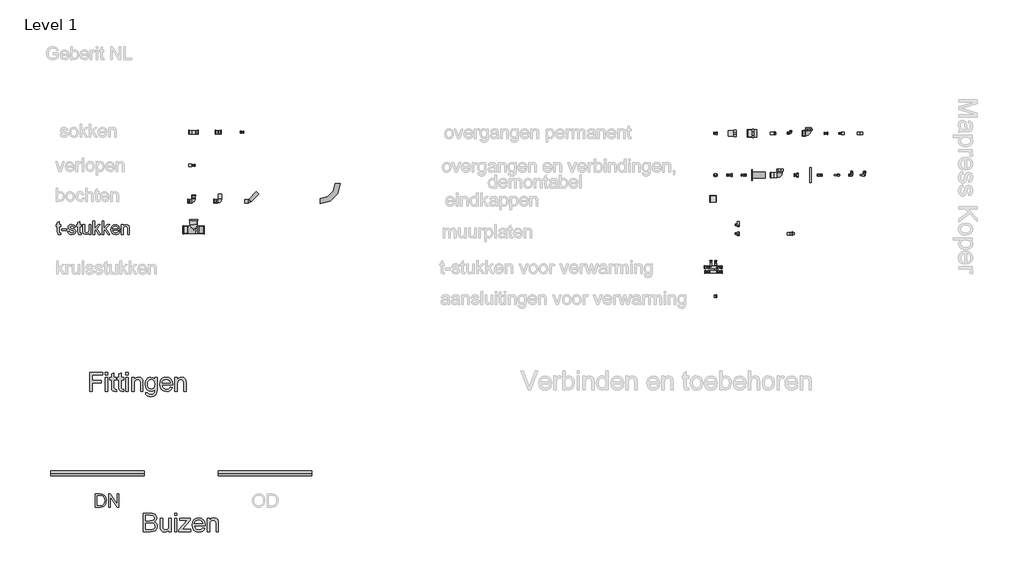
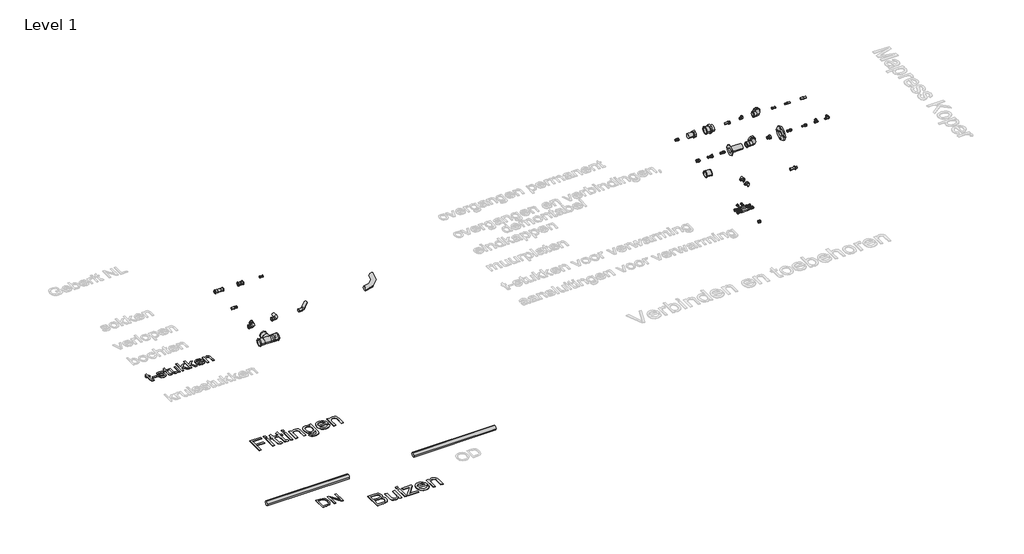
# One storey, part 1 of 7: 34 pipe fittings, 4 proxies, 3 pipe segments.
"""IFC4 building model written with IfcOpenShell, lengths in millimetres."""

from ifc_helpers import new_model, si_unit, point, frame, frame_2d, origin, origin_with_axes, place, context, project, spatial, polyline, circle_curve, trimmed, segment, composite_curve, outline, extrude, transform, mapped, element, save
from components import pipe_fitting_8753d62d, pipe_fitting_cea77ad7, pipe_fitting_85bc535a, pipe_fitting_5af64ebc, pipe_fitting_5f96ebef, pipe_fitting_c9f97ff8, pipe_fitting_71529f2a, pipe_fitting_ba9ec953, pipe_fitting_36b1eb7f, pipe_fitting_a139b20b, pipe_fitting_c629bbde, pipe_fitting_23f2ed73, pipe_fitting_fde87e36, pipe_fitting_cbf9872b, pipe_fitting_dd8badfe, pipe_fitting_a43a226b, pipe_fitting_d23605d3, pipe_fitting_670eabc0, dn10_100_d12_108_a1f77d31, dn10_100_d12_108_199a5dac, dn10_100_d12_108_195be385, dn10_100_d12_108_8bdaee71, dn10_20_d12_22_b3b4a3d3, dn10_20_d12_22_c27e3a43, dn10_20_d12_22_2ae8da42, dn12_100_d15_108_5494abe6, dn12_12_d15_15_60170937, dn12_12_d15_15_efb0e353, dn12_12_d15_15_3ed2f5e3, dn12_12_d15_15_e9d87322, dn12_15_d15_18_9d24d5f7, dn12_20_d16_25_9b3fed16, dn12_50_d16_63_917c8bb9, dn25_100_a48f3478, dn25_100_d28_108_3f39c27f, dn10_50_d12_54_8f782e33

model = new_model("IFC4")

# Units and contexts
model_context = context("Model", 3, world=origin())
ifc_project = project(units=[si_unit("LENGTHUNIT", "METRE", prefix="MILLI")], contexts=[model_context])

# Site, building, storey
site = spatial("IfcSite", under=ifc_project)
building = spatial("IfcBuilding", under=site)
storey = spatial("IfcBuildingStorey", under=building, Name="Level 1", Elevation=0.0)

# Proxies
placement = place(None, origin())
element("IfcBuildingElementProxy", 1, Name="medium", ObjectType="medium", at=placement, inside=storey, context=model_context, shape_type="SweptSolid", body=[
    extrude(outline(polyline([(-1520.685399, 2905.4001554), (-1520.685399, 3106.3127757), (-1385.6972322, 3106.3127757), (-1385.6972322, 3081.1986982), (-1495.5713215, 3081.1986982), (-1495.5713215, 3021.5527641), (-1401.3935307, 3021.5527641), (-1401.3935307, 2996.4386865), (-1495.5713215, 2996.4386865), (-1495.5713215, 2905.4001554), (-1520.685399, 2905.4001554)])), origin_with_axes(), (0.0, 0.0, 1.0), 5.0),
    extrude(outline(polyline([(-1354.3046353, 2905.4001554), (-1354.3046353, 3052.945361), (-1329.1905578, 3052.945361), (-1329.1905578, 2905.4001554), (-1354.3046353, 2905.4001554)])), origin_with_axes(), (0.0, 0.0, 1.0), 5.0),
    extrude(outline(polyline([(-1354.3046353, 3081.1986982), (-1354.3046353, 3106.3127757), (-1329.1905578, 3106.3127757), (-1329.1905578, 3081.1986982), (-1354.3046353, 3081.1986982)])), origin_with_axes(), (0.0, 0.0, 1.0), 5.0),
    extrude(outline(polyline([(-1238.1520267, 2926.3449037), (-1235.012767, 2904.6643915), (-1253.7992742, 2902.2608958), (-1274.8421244, 2906.430225), (-1285.339024, 2917.368583), (-1288.3801818, 2945.8671749), (-1288.3801818, 3027.8312834), (-1307.2157399, 3027.8312834), (-1307.2157399, 3052.945361), (-1288.3801818, 3052.945361), (-1288.3801818, 3088.8015928), (-1263.2661043, 3103.5659235), (-1263.2661043, 3052.945361), (-1238.1520267, 3052.945361), (-1238.1520267, 3027.8312834), (-1263.2661043, 3027.8312834), (-1263.2661043, 2946.6029389), (-1261.9417291, 2933.6534927), (-1257.6497725, 2929.0672305), (-1249.0903847, 2927.3749733), (-1238.1520267, 2926.3449037)])), origin_with_axes(), (0.0, 0.0, 1.0), 5.0),
    extrude(outline(polyline([(-1159.6705344, 2926.3449037), (-1156.5312747, 2904.6643915), (-1175.3177819, 2902.2608958), (-1196.3606321, 2906.430225), (-1206.8575317, 2917.368583), (-1209.8986895, 2945.8671749), (-1209.8986895, 3027.8312834), (-1228.7342476, 3027.8312834), (-1228.7342476, 3052.945361), (-1209.8986895, 3052.945361), (-1209.8986895, 3088.8015928), (-1184.7846119, 3103.5659235), (-1184.7846119, 3052.945361), (-1159.6705344, 3052.945361), (-1159.6705344, 3027.8312834), (-1184.7846119, 3027.8312834), (-1184.7846119, 2946.6029389), (-1183.4602368, 2933.6534927), (-1179.1682802, 2929.0672305), (-1170.6088924, 2927.3749733), (-1159.6705344, 2926.3449037)])), origin_with_axes(), (0.0, 0.0, 1.0), 5.0),
    extrude(outline(polyline([(-1134.5564569, 2905.4001554), (-1134.5564569, 3052.945361), (-1109.4423793, 3052.945361), (-1109.4423793, 2905.4001554), (-1134.5564569, 2905.4001554)])), origin_with_axes(), (0.0, 0.0, 1.0), 5.0),
    extrude(outline(polyline([(-1134.5564569, 3081.1986982), (-1134.5564569, 3106.3127757), (-1109.4423793, 3106.3127757), (-1109.4423793, 3081.1986982), (-1134.5564569, 3081.1986982)])), origin_with_axes(), (0.0, 0.0, 1.0), 5.0),
    extrude(outline(polyline([(-1071.771263, 2905.4001554), (-1071.771263, 3052.945361), (-1046.6571855, 3052.945361), (-1046.6571855, 3032.3439692), (-1037.9322508, 3042.7305042), (-1027.4537453, 3050.1494578), (-1015.221669, 3054.60083), (-1001.2360218, 3056.0846207), (-977.5198959, 3051.3021547), (-961.3330881, 3038.745116), (-953.8037699, 3020.2774398), (-952.4793947, 2995.9972281), (-952.4793947, 2905.4001554), (-977.5934723, 2905.4001554), (-977.5934723, 2992.6127138), (-980.4874773, 3014.8327863), (-990.7145968, 3026.5804847), (-1007.9559996, 3030.9705431), (-1022.665148, 3028.5057338), (-1035.2037927, 3021.1113057), (-1043.7938373, 3006.8252215), (-1046.6571855, 2983.685444), (-1046.6571855, 2905.4001554), (-1071.771263, 2905.4001554)])), origin_with_axes(), (0.0, 0.0, 1.0), 5.0),
    extrude(outline(polyline([(-924.2260575, 2892.8431167), (-899.11198, 2889.703857), (-896.3406023, 2881.8557078), (-890.9695251, 2876.4601052), (-880.4113119, 2872.2662504), (-866.5912116, 2870.8682988), (-851.8514063, 2872.4501914), (-840.8885229, 2877.1958691), (-833.2856283, 2884.7987637), (-828.6257897, 2894.9523068), (-826.909007, 2924.2357136), (-844.5918683, 2910.109045), (-866.1497532, 2905.4001554), (-892.0425143, 2910.8815972), (-911.3501877, 2927.3259224), (-923.3615348, 2951.4344558), (-927.3653172, 2979.9085222), (-925.5688268, 3000.1849515), (-920.1793555, 3018.8304373), (-911.3869759, 3034.630969), (-899.3817601, 3046.372536), (-884.5745098, 3053.6565995), (-867.3760265, 3056.0846207), (-844.972013, 3050.5909162), (-826.909007, 3034.1098028), (-826.909007, 3052.945361), (-801.7949295, 3052.945361), (-801.7949295, 2925.5600888), (-803.5117121, 2896.1479233), (-808.6620601, 2876.7789362), (-817.5341475, 2863.9337232), (-830.4161487, 2854.0928798), (-847.0260208, 2847.8388859), (-867.0817209, 2845.7542213), (-890.448359, 2848.6911459), (-908.8485901, 2857.5019197), (-920.6514708, 2872.2110681), (-924.2260575, 2892.8431167)]), holes=[polyline([(-902.2512397, 2981.6253048), (-899.5718325, 2958.5897606), (-891.5336109, 2942.7524407), (-879.4486873, 2933.5737849), (-864.6291743, 2930.514233), (-849.9200258, 2933.5553908), (-837.7737886, 2942.6788643), (-829.6252024, 2958.3138491), (-826.909007, 2980.8895409), (-829.7049102, 3002.6620236), (-838.0926197, 3018.339928), (-850.4166665, 3027.8128893), (-865.0215817, 3030.9705431), (-879.3628482, 3027.8619403), (-891.3864581, 3018.5361317), (-899.5350443, 3003.0912193), (-902.2512397, 2981.6253048)])]), origin_with_axes(), (0.0, 0.0, 1.0), 5.0),
    extrude(outline(polyline([(-660.8225489, 2949.3497911), (-636.1989807, 2946.2105314), (-645.0710682, 2927.6570162), (-659.2283936, 2913.7878649), (-678.352126, 2905.142638), (-702.1234343, 2902.2608958), (-731.5907821, 2907.2334341), (-754.2645757, 2922.151049), (-768.7223381, 2946.0449845), (-773.5415923, 2977.9464849), (-768.6732872, 3010.9209744), (-754.068372, 3035.5813308), (-731.7011467, 3050.9587982), (-703.5459113, 3056.0846207), (-676.2674614, 3050.9710609), (-654.4704532, 3035.6303817), (-640.1782377, 3011.0190763), (-635.4141658, 2978.0936377), (-635.5613186, 2971.324609), (-748.4275147, 2971.324609), (-744.0803758, 2952.525839), (-733.9820151, 2938.7057387), (-719.4077567, 2930.2076647), (-701.6329249, 2927.3749733), (-677.0093567, 2932.6234231), (-667.8613578, 2939.42924), (-660.8225489, 2949.3497911)]), holes=[polyline([(-748.4275147, 2996.4386865), (-660.5282434, 2996.4386865), (-663.9250204, 3009.7069638), (-670.5836846, 3019.1983193), (-685.225388, 3028.0274872), (-703.6440132, 3030.9705431), (-720.5727163, 3028.6222297), (-734.5706262, 3021.5772895), (-744.301105, 3010.596012), (-748.4275147, 2996.4386865)])]), origin_with_axes(), (0.0, 0.0, 1.0), 5.0),
    extrude(outline(polyline([(-610.3000883, 2905.4001554), (-610.3000883, 3052.945361), (-585.1860107, 3052.945361), (-585.1860107, 3032.3439692), (-576.4610761, 3042.7305042), (-565.9825706, 3050.1494578), (-553.7504943, 3054.60083), (-539.7648471, 3056.0846207), (-516.0487211, 3051.3021547), (-499.8619133, 3038.745116), (-492.3325952, 3020.2774398), (-491.00822, 2995.9972281), (-491.00822, 2905.4001554), (-516.1222975, 2905.4001554), (-516.1222975, 2992.6127138), (-519.0163025, 3014.8327863), (-529.243422, 3026.5804847), (-546.4848248, 3030.9705431), (-561.1939733, 3028.5057338), (-573.732618, 3021.1113057), (-582.3226625, 3006.8252215), (-585.1860107, 2983.685444), (-585.1860107, 2905.4001554), (-610.3000883, 2905.4001554)])), origin_with_axes(), (0.0, 0.0, 1.0), 5.0),
])
element("IfcBuildingElementProxy", 2, Name="medium", ObjectType="medium", at=placement, inside=storey, context=model_context, shape_type="SweptSolid", body=[
    extrude(outline(polyline([(-950.0809458, 1396.8925288), (-950.0809458, 1597.805149), (-873.414338, 1597.805149), (-852.3285683, 1596.3274897), (-835.865849, 1591.8945117), (-823.2474966, 1584.3958503), (-813.6948274, 1573.7211411), (-807.6799568, 1561.1641023), (-805.6749999, 1548.0184524), (-807.3611257, 1535.9212661), (-812.4195032, 1524.5475811), (-820.8869204, 1514.5963731), (-832.8001657, 1506.766618), (-818.5692639, 1499.3354017), (-808.0539702, 1488.0291617), (-801.5608529, 1473.5959247), (-799.3964805, 1456.7837176), (-805.3071179, 1429.7811791), (-819.9488213, 1410.5532135), (-841.8010118, 1400.3506195), (-874.0029492, 1396.8925288), (-950.0809458, 1396.8925288)]), holes=[polyline([(-924.9668682, 1422.0066063), (-873.4633889, 1422.0066063), (-854.8240345, 1422.9876249), (-839.0541596, 1428.4568039), (-828.606311, 1439.6158911), (-824.5105581, 1456.5384629), (-829.3175495, 1476.0607341), (-835.614463, 1483.1179371), (-844.8912206, 1487.7103306), (-875.9159355, 1491.0703195), (-924.9668682, 1491.0703195), (-924.9668682, 1422.0066063)]), polyline([(-924.9668682, 1516.1843971), (-879.1042462, 1516.1843971), (-852.3224369, 1518.3426381), (-836.2092055, 1527.6377898), (-830.7890775, 1543.9962759), (-835.8413235, 1560.3792874), (-850.3113487, 1570.0668466), (-882.5868624, 1572.6910715), (-924.9668682, 1572.6910715), (-924.9668682, 1516.1843971)])]), origin_with_axes(), (0.0, 0.0, 1.0), 5.0),
    extrude(outline(polyline([(-673.8260929, 1396.8925288), (-673.8260929, 1422.251861), (-682.9127781, 1409.783727), (-693.4955169, 1400.877917), (-705.574309, 1395.5344311), (-719.1491547, 1393.7532691), (-742.7671787, 1398.7564642), (-759.0520884, 1411.313503), (-766.5323556, 1429.8057046), (-768.0038836, 1453.1539485), (-768.0038836, 1544.4377343), (-742.8898061, 1544.4377343), (-742.8898061, 1464.9752233), (-741.3692272, 1439.3706365), (-737.7088013, 1430.8296428), (-731.4364133, 1424.3365256), (-712.7234825, 1418.8673466), (-691.7542087, 1424.4591529), (-683.3971561, 1431.0626347), (-677.8973203, 1439.6894675), (-673.8260929, 1467.6730246), (-673.8260929, 1544.4377343), (-648.7120153, 1544.4377343), (-648.7120153, 1396.8925288), (-673.8260929, 1396.8925288)])), origin_with_axes(), (0.0, 0.0, 1.0), 5.0),
    extrude(outline(polyline([(-614.1801587, 1572.6910715), (-614.1801587, 1597.805149), (-589.0660812, 1597.805149), (-589.0660812, 1572.6910715), (-614.1801587, 1572.6910715)])), origin_with_axes(), (0.0, 0.0, 1.0), 5.0),
    extrude(outline(polyline([(-614.1801587, 1396.8925288), (-614.1801587, 1544.4377343), (-589.0660812, 1544.4377343), (-589.0660812, 1396.8925288), (-614.1801587, 1396.8925288)])), origin_with_axes(), (0.0, 0.0, 1.0), 5.0),
    extrude(outline(polyline([(-567.0912633, 1396.8925288), (-567.0912633, 1420.5350783), (-480.4182653, 1519.3236567), (-506.071903, 1519.3236567), (-560.8127439, 1519.3236567), (-560.8127439, 1544.4377343), (-444.6601353, 1544.4377343), (-444.6601353, 1523.1005786), (-521.5229468, 1435.4465618), (-533.2951707, 1422.0066063), (-504.2570185, 1422.0066063), (-441.5208756, 1422.0066063), (-441.5208756, 1396.8925288), (-567.0912633, 1396.8925288)])), origin_with_axes(), (0.0, 0.0, 1.0), 5.0),
    extrude(outline(polyline([(-313.1055338, 1440.8421644), (-288.4819656, 1437.7029047), (-297.3540531, 1419.1493895), (-311.5113785, 1405.2802382), (-330.6351109, 1396.6350114), (-354.4064192, 1393.7532691), (-383.873767, 1398.7258074), (-406.5475606, 1413.6434223), (-421.005323, 1437.5373579), (-425.8245772, 1469.4388582), (-420.9562721, 1502.4133477), (-406.3513569, 1527.0737041), (-383.9841316, 1542.4511715), (-355.8288962, 1547.576994), (-328.5504463, 1542.4634342), (-306.7534381, 1527.122755), (-292.4612226, 1502.5114496), (-287.6971507, 1469.586011), (-287.8443035, 1462.8169823), (-400.7104996, 1462.8169823), (-396.3633607, 1444.0182123), (-386.265, 1430.198112), (-371.6907416, 1421.700038), (-353.9159098, 1418.8673466), (-329.2923416, 1424.1157964), (-320.1443427, 1430.9216133), (-313.1055338, 1440.8421644)]), holes=[polyline([(-400.7104996, 1487.9310598), (-312.8112283, 1487.9310598), (-316.2080053, 1501.1993371), (-322.8666695, 1510.6906926), (-337.5083729, 1519.5198605), (-355.9269981, 1522.4629164), (-372.8557012, 1520.114603), (-386.8536111, 1513.0696628), (-396.5840899, 1502.0883853), (-400.7104996, 1487.9310598)])]), origin_with_axes(), (0.0, 0.0, 1.0), 5.0),
    extrude(outline(polyline([(-262.5830732, 1396.8925288), (-262.5830732, 1544.4377343), (-237.4689956, 1544.4377343), (-237.4689956, 1523.8363426), (-228.744061, 1534.2228775), (-218.2655555, 1541.6418311), (-206.0334792, 1546.0932033), (-192.047832, 1547.576994), (-168.331706, 1542.794528), (-152.1448982, 1530.2374893), (-144.6155801, 1511.7698131), (-143.2912049, 1487.4896014), (-143.2912049, 1396.8925288), (-168.4052824, 1396.8925288), (-168.4052824, 1484.1050871), (-171.2992874, 1506.3251596), (-181.5264069, 1518.072858), (-198.7678097, 1522.4629164), (-213.4769582, 1519.9981071), (-226.0156029, 1512.603679), (-234.6056474, 1498.3175948), (-237.4689956, 1475.1778173), (-237.4689956, 1396.8925288), (-262.5830732, 1396.8925288)])), origin_with_axes(), (0.0, 0.0, 1.0), 5.0),
])
element("IfcBuildingElementProxy", 3, Name="small", ObjectType="small", at=placement, inside=storey, context=model_context, shape_type="SweptSolid", body=[
    extrude(outline(polyline([(-1834.1592293, 4602.2618599), (-1831.9617475, 4587.0855013), (-1845.1123026, 4585.4030543), (-1859.8422977, 4588.3215848), (-1867.1901274, 4595.9784354), (-1869.3189379, 4615.9274497), (-1869.3189379, 4673.3023257), (-1882.5038286, 4673.3023257), (-1882.5038286, 4690.88218), (-1869.3189379, 4690.88218), (-1869.3189379, 4715.9815422), (-1851.7390836, 4726.3165737), (-1851.7390836, 4690.88218), (-1834.1592293, 4690.88218), (-1834.1592293, 4673.3023257), (-1851.7390836, 4673.3023257), (-1851.7390836, 4616.4424845), (-1850.812021, 4607.3778721), (-1847.8076513, 4604.1674886), (-1841.8160799, 4602.9829086), (-1834.1592293, 4602.2618599)])), origin_with_axes(), (0.0, 0.0, 1.0), 5.0),
    extrude(outline(polyline([(-1825.3693022, 4629.35269), (-1825.3693022, 4646.9325443), (-1770.4322576, 4646.9325443), (-1770.4322576, 4629.35269), (-1825.3693022, 4629.35269)])), origin_with_axes(), (0.0, 0.0, 1.0), 5.0),
    extrude(outline(polyline([(-1757.2473669, 4618.3652811), (-1739.6675126, 4620.5627629), (-1736.8949086, 4613.0432549), (-1731.5299628, 4607.5152148), (-1712.8857033, 4602.9829086), (-1694.9624925, 4607.1375226), (-1689.1254315, 4616.888848), (-1694.9968282, 4624.7860482), (-1713.0917172, 4629.7990535), (-1739.5645056, 4638.4001345), (-1751.1184528, 4648.443313), (-1755.0498851, 4662.6239376), (-1751.891005, 4675.7229892), (-1743.2727561, 4685.731832), (-1732.0965011, 4690.9336834), (-1716.971646, 4693.0796617), (-1695.5805343, 4689.6289286), (-1681.9836157, 4680.289631), (-1675.9405408, 4664.5123985), (-1693.5203951, 4662.3149168), (-1700.1300083, 4672.0147387), (-1715.5982199, 4675.4998075), (-1732.4226898, 4672.1692491), (-1737.4700308, 4664.4093916), (-1735.375556, 4659.2933793), (-1728.8174463, 4655.4134505), (-1713.6754233, 4651.6708644), (-1687.8721802, 4643.395972), (-1675.8890373, 4634.0223388), (-1671.5455773, 4618.7429733), (-1676.6444217, 4601.9185033), (-1691.357249, 4589.7121787), (-1713.1260529, 4585.4030543), (-1730.8518337, 4587.4803613), (-1743.7877909, 4593.7122823), (-1752.4232076, 4604.030146), (-1757.2473669, 4618.3652811)])), origin_with_axes(), (0.0, 0.0, 1.0), 5.0),
    extrude(outline(polyline([(-1614.4110509, 4602.2618599), (-1612.2135691, 4587.0855013), (-1625.3641241, 4585.4030543), (-1640.0941192, 4588.3215848), (-1647.4419489, 4595.9784354), (-1649.5707594, 4615.9274497), (-1649.5707594, 4673.3023257), (-1662.7556501, 4673.3023257), (-1662.7556501, 4690.88218), (-1649.5707594, 4690.88218), (-1649.5707594, 4715.9815422), (-1631.9909051, 4726.3165737), (-1631.9909051, 4690.88218), (-1614.4110509, 4690.88218), (-1614.4110509, 4673.3023257), (-1631.9909051, 4673.3023257), (-1631.9909051, 4616.4424845), (-1631.0638425, 4607.3778721), (-1628.0594729, 4604.1674886), (-1622.0679015, 4602.9829086), (-1614.4110509, 4602.2618599)])), origin_with_axes(), (0.0, 0.0, 1.0), 5.0),
    extrude(outline(polyline([(-1530.906743, 4587.6005361), (-1530.906743, 4605.3520686), (-1544.6753399, 4590.3903079), (-1562.6328863, 4585.4030543), (-1579.1655032, 4588.9052909), (-1590.5649399, 4597.695218), (-1595.801127, 4610.6397592), (-1596.8311966, 4626.9835299), (-1596.8311966, 4690.88218), (-1579.2513423, 4690.88218), (-1579.2513423, 4635.2584223), (-1578.1869371, 4617.3352115), (-1571.2339674, 4606.8113339), (-1558.1349158, 4602.9829086), (-1543.4564242, 4606.897173), (-1533.7566022, 4617.5583932), (-1530.906743, 4637.1468832), (-1530.906743, 4690.88218), (-1513.3268888, 4690.88218), (-1513.3268888, 4587.6005361), (-1530.906743, 4587.6005361)])), origin_with_axes(), (0.0, 0.0, 1.0), 5.0),
    extrude(outline(polyline([(-1489.1545891, 4587.6005361), (-1489.1545891, 4728.2393703), (-1471.5747349, 4728.2393703), (-1471.5747349, 4652.6665983), (-1432.1574054, 4690.88218), (-1407.8477631, 4690.88218), (-1447.7457918, 4652.1858992), (-1405.6502813, 4587.6005361), (-1426.1830018, 4587.6005361), (-1460.3469764, 4639.9624067), (-1471.5747349, 4629.0780048), (-1471.5747349, 4587.6005361), (-1489.1545891, 4587.6005361)])), origin_with_axes(), (0.0, 0.0, 1.0), 5.0),
    extrude(outline(polyline([(-1390.2679088, 4587.6005361), (-1390.2679088, 4728.2393703), (-1372.6880546, 4728.2393703), (-1372.6880546, 4652.6665983), (-1333.2707251, 4690.88218), (-1308.9610828, 4690.88218), (-1348.8591115, 4652.1858992), (-1306.763601, 4587.6005361), (-1327.2963215, 4587.6005361), (-1361.4602961, 4639.9624067), (-1372.6880546, 4629.0780048), (-1372.6880546, 4587.6005361), (-1390.2679088, 4587.6005361)])), origin_with_axes(), (0.0, 0.0, 1.0), 5.0),
    extrude(outline(polyline([(-1219.0703436, 4618.3652811), (-1201.8338458, 4616.1677993), (-1208.044307, 4603.1803386), (-1217.9544348, 4593.4719327), (-1231.3410475, 4587.4202739), (-1247.9809633, 4585.4030543), (-1268.6081068, 4588.8838311), (-1284.4797623, 4599.3261615), (-1294.600196, 4616.0519165), (-1297.9736739, 4638.3829667), (-1294.5658603, 4661.4651094), (-1284.3424197, 4678.7273588), (-1268.685362, 4689.491586), (-1248.9766972, 4693.0796617), (-1229.8817823, 4689.5001699), (-1214.6238765, 4678.7616945), (-1204.6193257, 4661.5337807), (-1201.2844754, 4638.4859737), (-1201.3874823, 4633.7476536), (-1280.3938196, 4633.7476536), (-1277.3508224, 4620.5885146), (-1270.2819698, 4610.9144444), (-1260.079989, 4604.9657925), (-1247.6376068, 4602.9829086), (-1230.401109, 4606.6568234), (-1219.0703436, 4618.3652811)]), holes=[polyline([(-1280.3938196, 4651.3275078), (-1218.8643296, 4651.3275078), (-1225.9031385, 4667.2592508), (-1236.1523309, 4673.4396683), (-1249.0453685, 4675.4998075), (-1260.8954607, 4673.8559881), (-1270.6939977, 4668.9245299), (-1277.5053328, 4661.2376357), (-1280.3938196, 4651.3275078)])]), origin_with_axes(), (0.0, 0.0, 1.0), 5.0),
    extrude(outline(polyline([(-1183.7046211, 4587.6005361), (-1183.7046211, 4690.88218), (-1166.1247668, 4690.88218), (-1166.1247668, 4676.4612057), (-1152.6823587, 4688.9250477), (-1134.3299522, 4693.0796617), (-1117.7286641, 4689.7319356), (-1106.3978986, 4680.9420085), (-1101.1273759, 4668.0146351), (-1100.2003133, 4651.018487), (-1100.2003133, 4587.6005361), (-1117.7801676, 4587.6005361), (-1117.7801676, 4648.6493269), (-1119.8059711, 4664.2033777), (-1126.9649547, 4672.4267665), (-1139.0339367, 4675.4998075), (-1149.3303406, 4673.7744409), (-1158.1073919, 4668.5983412), (-1164.1204231, 4658.5980823), (-1166.1247668, 4642.4002381), (-1166.1247668, 4587.6005361), (-1183.7046211, 4587.6005361)])), origin_with_axes(), (0.0, 0.0, 1.0), 5.0),
])
element("IfcBuildingElementProxy", 4, Name="small", ObjectType="small", at=placement, inside=storey, context=model_context, shape_type="SweptSolid", body=[
    extrude(outline(polyline([(-1462.640046, 1662.4383691), (-1462.640046, 1803.0772033), (-1414.1237685, 1803.0772033), (-1389.0244062, 1801.0513997), (-1368.3543432, 1790.9910535), (-1358.6287695, 1780.2783298), (-1351.7015515, 1766.9560964), (-1346.1735114, 1733.5131705), (-1349.9160976, 1705.1347534), (-1359.5300804, 1684.6535365), (-1372.3716146, 1671.8978414), (-1389.1789167, 1664.8418648), (-1411.7889441, 1662.4383691), (-1462.640046, 1662.4383691)]), holes=[polyline([(-1445.0601917, 1680.0182233), (-1413.9520902, 1680.0182233), (-1391.324895, 1682.5590616), (-1378.2773469, 1689.7352131), (-1367.581791, 1707.1948926), (-1363.7533657, 1733.7878557), (-1365.6289507, 1752.9471501), (-1371.2557059, 1767.093439), (-1379.5692258, 1776.8104288), (-1389.5051054, 1782.6818255), (-1414.4327894, 1785.497349), (-1445.0601917, 1785.497349), (-1445.0601917, 1680.0182233)])]), origin_with_axes(), (0.0, 0.0, 1.0), 5.0),
    extrude(outline(polyline([(-1322.0012118, 1662.4383691), (-1322.0012118, 1803.0772033), (-1303.185274, 1803.0772033), (-1229.7069769, 1691.6580097), (-1229.7069769, 1803.0772033), (-1212.1271226, 1803.0772033), (-1212.1271226, 1662.4383691), (-1230.9430604, 1662.4383691), (-1304.4213575, 1773.8918983), (-1304.4213575, 1662.4383691), (-1322.0012118, 1662.4383691)])), origin_with_axes(), (0.0, 0.0, 1.0), 5.0),
])

# Pipe fittings
pipe_fitting_shape = pipe_fitting_8753d62d(model_context)
element("IfcPipeFitting", 5, ObjectType="NLRS_50_PIF_UN_Mapress koper pasbocht_geb : DN25-50 / d28-54 (15°/30°/45°/60°), DN12-50 / d15-54 (90°)", at=placement, inside=storey, context=model_context, shape_type="MappedRepresentation", body=[
    mapped(pipe_fitting_shape, transform((186.582667, 4943.5495956, 0.0), x_axis=(1.0, 0.0, 0.0), y_axis=(0.0, 1.0, 0.0), z_axis=(0.0, 0.0, 1.0))),
])
pipe_fitting_2_shape = pipe_fitting_cea77ad7(model_context)
element("IfcPipeFitting", 6, ObjectType="NLRS_50_PIF_UN_Mapress koper overgang met binnendraad_geb : DN10-50-Rp2\" / d12-54-Rp2\"", at=placement, inside=storey, context=model_context, shape_type="MappedRepresentation", body=[
    mapped(pipe_fitting_2_shape, transform((5184.1814042, 5671.2665691, 0.0), x_axis=(1.0, 0.0, 0.0), y_axis=(0.0, 1.0, 0.0), z_axis=(0.0, 0.0, 1.0))),
])
pipe_fitting_3_shape = pipe_fitting_85bc535a(model_context)
element("IfcPipeFitting", 7, ObjectType="NLRS_50_PIF_UN_Mapress koper overgang met binnendraad en insteekeinde_geb : DN12-50-Rp2\" / d15-54-Rp2\"", at=placement, inside=storey, context=model_context, shape_type="MappedRepresentation", body=[
    mapped(pipe_fitting_3_shape, transform((5367.1408696, 5671.2665691, 0.0), x_axis=(1.0, 0.0, 0.0), y_axis=(0.0, 1.0, 0.0), z_axis=(0.0, 0.0, 1.0))),
])
pipe_fitting_4_shape = pipe_fitting_5af64ebc(model_context)
element("IfcPipeFitting", 8, ObjectType="NLRS_50_PIF_UN_Mapress koper overgang met buitendraad_geb : DN10-80-R3\" / d12-89-R3\"", at=placement, inside=storey, context=model_context, shape_type="MappedRepresentation", body=[
    mapped(pipe_fitting_4_shape, transform((5576.1389322, 5671.2665691, 0.0), x_axis=(1.0, 0.0, 0.0), y_axis=(0.0, 1.0, 0.0), z_axis=(0.0, 0.0, 1.0))),
])
pipe_fitting_5_shape = pipe_fitting_5f96ebef(model_context)
element("IfcPipeFitting", 9, ObjectType="NLRS_50_PIF_UN_Mapress koper overgang met buitendraad en insteekeinde_geb : DN12-20-R3/4\" / d15-22-R3/4\"", at=placement, inside=storey, context=model_context, shape_type="MappedRepresentation", body=[
    mapped(pipe_fitting_5_shape, transform((5802.0970813, 5671.2665691, 0.0), x_axis=(1.0, 0.0, 0.0), y_axis=(0.0, 1.0, 0.0), z_axis=(0.0, 0.0, 1.0))),
])
pipe_fitting_6_shape = pipe_fitting_c9f97ff8(model_context)
element("IfcPipeFitting", 10, ObjectType="NLRS_50_PIF_UN_Mapress koper overgangsknie 90° met binnendraad_geb : DN10-50-Rp2\" / d12-54-Rp2\"", at=placement, inside=storey, context=model_context, shape_type="MappedRepresentation", body=[
    mapped(pipe_fitting_6_shape, transform((5990.1573118, 5674.2665691, 0.0), x_axis=(1.0, 0.0, 0.0), y_axis=(0.0, 1.0, 0.0), z_axis=(0.0, 0.0, 1.0))),
])
pipe_fitting_7_shape = pipe_fitting_71529f2a(model_context)
element("IfcPipeFitting", 11, ObjectType="NLRS_50_PIF_UN_Mapress koper overgangsknie 90° met buitendraad_geb : DN10-50-R2\" / d12-54-R2\"", at=placement, inside=storey, context=model_context, shape_type="MappedRepresentation", body=[
    mapped(pipe_fitting_7_shape, transform((6181.7509236, 5671.2665691, 0.0), x_axis=(1.0, 0.0, 0.0), y_axis=(0.0, 1.0, 0.0), z_axis=(0.0, 0.0, 1.0))),
])
pipe_fitting_8_shape = pipe_fitting_ba9ec953(model_context)
element("IfcPipeFitting", 12, ObjectType="NLRS_50_PIF_UN_Mapress koper muurplaat 90°_geb : DN10-20-Rp3/4\" / d12-22-Rp3/4\" (L1=52 mm)", at=placement, inside=storey, context=model_context, shape_type="MappedRepresentation", body=[
    mapped(pipe_fitting_8_shape, transform((5426.4141834, 4690.45972, 0.0), x_axis=(1.0, 0.0, 0.0), y_axis=(0.0, 1.0, 0.0), z_axis=(0.0, 0.0, 1.0))),
])
pipe_fitting_9_shape = pipe_fitting_36b1eb7f(model_context)
element("IfcPipeFitting", 13, ObjectType="NLRS_50_PIF_UN_adapter met buitendraad MF 1_2_ en binnendraad_geb : DN15-15 / G1/2\"-R1/2\"", at=placement, inside=storey, context=model_context, shape_type="MappedRepresentation", body=[
    mapped(pipe_fitting_9_shape, transform((5184.6814042, 5223.8660039, 0.0), x_axis=(1.0, 0.0, 0.0), y_axis=(0.0, 1.0, 0.0), z_axis=(0.0, 0.0, 1.0))),
])
pipe_fitting_10_shape = pipe_fitting_a139b20b(model_context)
element("IfcPipeFitting", 14, ObjectType="NLRS_50_PIF_UN_Mapress koper 3-d overgangskoppeling met binnendraad_geb : DN10-50-Rp2\" / d12-54-Rp2\"", at=placement, inside=storey, context=model_context, shape_type="MappedRepresentation", body=[
    mapped(pipe_fitting_10_shape, transform((5335.2874594, 5223.8660039, 0.0), x_axis=(1.0, 0.0, 0.0), y_axis=(0.0, 1.0, 0.0), z_axis=(0.0, 0.0, 1.0))),
])
pipe_fitting_11_shape = pipe_fitting_c629bbde(model_context)
element("IfcPipeFitting", 15, ObjectType="NLRS_50_PIF_UN_Mapress koper 3-d overgangskoppeling met buitendraad_geb : DN10-50-R2\" / d12-54-R2\"", at=placement, inside=storey, context=model_context, shape_type="MappedRepresentation", body=[
    mapped(pipe_fitting_11_shape, transform((5486.9410616, 5223.8660039, 0.0), x_axis=(1.0, 0.0, 0.0), y_axis=(0.0, 1.0, 0.0), z_axis=(0.0, 0.0, 1.0))),
])
pipe_fitting_12_shape = pipe_fitting_23f2ed73(model_context)
element("IfcPipeFitting", 16, ObjectType="NLRS_50_PIF_UN_Mapress koper haakse 3-d overgangskoppeling 90° met binnendraad_geb : DN12-50-Rp2\" / d15-54-Rp2\"", at=placement, inside=storey, context=model_context, shape_type="MappedRepresentation", body=[
    mapped(pipe_fitting_12_shape, transform((5873.4393644, 5223.8660039, 0.0), x_axis=(1.0, 0.0, 0.0), y_axis=(0.0, 1.0, 0.0), z_axis=(0.0, 0.0, 1.0))),
])
pipe_fitting_13_shape = pipe_fitting_fde87e36(model_context)
element("IfcPipeFitting", 17, ObjectType="NLRS_50_PIF_UN_Mapress koper overgang met wartel_geb : DN10-80-G3.1/2\" / d12-89-G3.1/2\"", at=placement, inside=storey, context=model_context, shape_type="MappedRepresentation", body=[
    mapped(pipe_fitting_13_shape, transform((6048.5218491, 5223.8660039, 0.0), x_axis=(1.0, 0.0, 0.0), y_axis=(0.0, 1.0, 0.0), z_axis=(0.0, 0.0, 1.0))),
])
pipe_fitting_14_shape = pipe_fitting_cbf9872b(model_context)
element("IfcPipeFitting", 18, ObjectType="NLRS_50_PIF_UN_Mapress koper muurplaat 90°_geb : DN10-15-Rp1/2\" / d12-18-Rp1/2\" (L1=36 mm)", at=placement, inside=storey, context=model_context, shape_type="MappedRepresentation", body=[
    mapped(pipe_fitting_14_shape, transform((5426.4141834, 4595.8707941, 0.0), x_axis=(1.0, 0.0, 0.0), y_axis=(0.0, 1.0, 0.0), z_axis=(0.0, 0.0, 1.0))),
])
pipe_fitting_15_shape = pipe_fitting_dd8badfe(model_context)
element("IfcPipeFitting", 19, ObjectType="NLRS_50_PIF_UN_muurplaat rechte aansluiting met buitendraad MF 1_2_geb : DN15-15 / Rp1/2''-R1/2''", at=placement, inside=storey, context=model_context, shape_type="MappedRepresentation", body=[
    mapped(pipe_fitting_15_shape, transform((5990.1629981, 4595.8707941, 0.0), x_axis=(1.0, 0.0, 0.0), y_axis=(0.0, 1.0, 0.0), z_axis=(0.0, 0.0, 1.0))),
])
pipe_fitting_16_shape = pipe_fitting_a43a226b(model_context)
element("IfcPipeFitting", 20, ObjectType="NLRS_50_PIF_UN_adapter Euroconus, met buitendraad_geb : DN15-20/ G3/4'' / d20-26/ G3/4''", at=placement, inside=storey, context=model_context, shape_type="MappedRepresentation", body=[
    mapped(pipe_fitting_16_shape, transform((5184.6814042, 3925.3439619, 0.0), x_axis=(1.0, 0.0, 0.0), y_axis=(0.0, 1.0, 0.0), z_axis=(0.0, 0.0, 1.0))),
])
pipe_fitting_17_shape = pipe_fitting_d23605d3(model_context)
element("IfcPipeFitting", 21, ObjectType="NLRS_50_PIF_UN_Mapress koper bocht_geb : DN10-100 / d12-108 (45° & 90°)", at=placement, inside=storey, context=model_context, shape_type="MappedRepresentation", body=[
    mapped(pipe_fitting_17_shape, transform((-409.8825546, 4943.5495956, 0.0), x_axis=(1.0, 0.0, 0.0), y_axis=(0.0, 1.0, 0.0), z_axis=(0.0, 0.0, 1.0))),
])
pipe_fitting_18_shape = pipe_fitting_670eabc0(model_context)
element("IfcPipeFitting", 22, ObjectType="NLRS_50_PIF_UN_Mapress koper bocht met insteekeinde_geb : DN10-100 / d12-108 (45° & 90°)", at=placement, inside=storey, context=model_context, shape_type="MappedRepresentation", body=[
    mapped(pipe_fitting_18_shape, transform((-127.4738281, 4943.5495956, 0.0), x_axis=(1.0, 0.0, 0.0), y_axis=(0.0, 1.0, 0.0), z_axis=(0.0, 0.0, 1.0))),
])
dn10_100_d12_108_shape = dn10_100_d12_108_a1f77d31(model_context)
element("IfcPipeFitting", 23, ObjectType="NLRS_50_PIF_UN_Mapress koper verloop met insteekeinde_geb : DN10-100 / d12-108", at=placement, inside=storey, context=model_context, shape_type="MappedRepresentation", body=[
    mapped(dn10_100_d12_108_shape, transform((-460.0821642, 5328.1425392, 0.0), x_axis=(1.0, 0.0, 0.0), y_axis=(0.0, 1.0, 0.0), z_axis=(0.0, 0.0, 1.0))),
])
dn10_100_d12_108_2_shape = dn10_100_d12_108_199a5dac(model_context)
element("IfcPipeFitting", 24, ObjectType="NLRS_50_PIF_UN_Mapress koper kap_geb : DN10-100 / d12-108", at=placement, inside=storey, context=model_context, shape_type="MappedRepresentation", body=[
    mapped(dn10_100_d12_108_2_shape, transform((5184.6814042, 4968.1425392, 0.0), x_axis=(1.0, 0.0, 0.0), y_axis=(0.0, 1.0, 0.0), z_axis=(0.0, 0.0, 1.0))),
])
dn10_100_d12_108_3_shape = dn10_100_d12_108_195be385(model_context)
element("IfcPipeFitting", 25, ObjectType="NLRS_50_PIF_UN_Mapress koper gelijkzijdig T-stuk_geb : DN10-100 / d12-108", at=placement, inside=storey, context=model_context, shape_type="MappedRepresentation", body=[
    mapped(dn10_100_d12_108_3_shape, transform((-409.8825546, 4636.6259972, 0.0), x_axis=(1.0, 0.0, 0.0), y_axis=(0.0, 1.0, 0.0), z_axis=(0.0, 0.0, 1.0))),
])
dn10_100_d12_108_4_shape = dn10_100_d12_108_8bdaee71(model_context)
element("IfcPipeFitting", 26, ObjectType="NLRS_50_PIF_UN_Mapress koper sok_geb : DN10-100 / d12-108", at=placement, inside=storey, context=model_context, shape_type="MappedRepresentation", body=[
    mapped(dn10_100_d12_108_4_shape, transform((-145.8976175, 5683.8577253, 0.0), x_axis=(1.0, 0.0, 0.0), y_axis=(0.0, 1.0, 0.0), z_axis=(0.0, 0.0, 1.0))),
])
dn10_20_d12_22_shape = dn10_20_d12_22_b3b4a3d3(model_context)
element("IfcPipeFitting", 27, ObjectType="NLRS_50_PIF_UN_Mapress koper verloopsok_geb : DN10-20 / d12-22", at=placement, inside=storey, context=model_context, shape_type="MappedRepresentation", body=[
    mapped(dn10_20_d12_22_shape, transform((107.7350809, 5683.8577253, 0.0), x_axis=(1.0, 0.0, 0.0), y_axis=(0.0, 1.0, 0.0), z_axis=(0.0, 0.0, 1.0))),
])
dn10_20_d12_22_2_shape = dn10_20_d12_22_c27e3a43(model_context)
dn10_20_d12_22_3_shape = dn10_20_d12_22_2ae8da42(model_context)
element("IfcPipeFitting", 28, ObjectType="NLRS_50_PIF_UN_Mapress kruising-T-stuk met isolatiebox_geb : DN10-20 / d12-22", at=placement, inside=storey, context=model_context, shape_type="MappedRepresentation", body=[
    mapped(dn10_20_d12_22_2_shape, transform((5184.6814042, 4235.6337137, 0.0), x_axis=(1.0, 0.0, 0.0), y_axis=(0.0, 1.0, 0.0), z_axis=(0.0, 0.0, 1.0))),
    mapped(dn10_20_d12_22_3_shape, transform((5184.6814042, 4235.6337137, 0.0), x_axis=(1.0, 0.0, 0.0), y_axis=(0.0, 1.0, 0.0), z_axis=(0.0, 0.0, 1.0))),
])
dn12_100_d15_108_shape = dn12_100_d15_108_5494abe6(model_context)
element("IfcPipeFitting", 29, ObjectType="NLRS_50_PIF_UN_Mapress koper overschuifsok_geb : DN12-100 / d15-108", at=placement, inside=storey, context=model_context, shape_type="MappedRepresentation", body=[
    mapped(dn12_100_d15_108_shape, transform((-409.8825546, 5683.8577253, 0.0), x_axis=(1.0, 0.0, 0.0), y_axis=(0.0, 1.0, 0.0), z_axis=(0.0, 0.0, 1.0))),
])
dn12_12_d15_15_shape = dn12_12_d15_15_60170937(model_context)
element("IfcPipeFitting", 30, ObjectType="NLRS_50_PIF_UN_Mapress overgang met MasterFix_geb : DN12-12 / d15-15", at=placement, inside=storey, context=model_context, shape_type="MappedRepresentation", body=[
    mapped(dn12_12_d15_15_shape, transform((6302.8733219, 5223.8660039, 0.0), x_axis=(1.0, 0.0, 0.0), y_axis=(0.0, 1.0, 0.0), z_axis=(0.0, 0.0, 1.0))),
])
dn12_12_d15_15_2_shape = dn12_12_d15_15_efb0e353(model_context)
element("IfcPipeFitting", 31, ObjectType="NLRS_50_PIF_UN_Mapress overgang met MasterFix en insteekeinde_geb : DN12-12 / d15-15", at=placement, inside=storey, context=model_context, shape_type="MappedRepresentation", body=[
    mapped(dn12_12_d15_15_2_shape, transform((6485.2489686, 5223.8660039, 0.0), x_axis=(1.0, 0.0, 0.0), y_axis=(0.0, 1.0, 0.0), z_axis=(0.0, 0.0, 1.0))),
])
dn12_12_d15_15_3_shape = dn12_12_d15_15_3ed2f5e3(model_context)
element("IfcPipeFitting", 32, ObjectType="NLRS_50_PIF_UN_Mapress overgangsknie 90° met MasterFix en insteekeinde_geb : DN12-12 / d15-15", at=placement, inside=storey, context=model_context, shape_type="MappedRepresentation", body=[
    mapped(dn12_12_d15_15_3_shape, transform((6779.9882126, 5223.8660039, 0.0), x_axis=(1.0, 0.0, 0.0), y_axis=(0.0, 1.0, 0.0), z_axis=(0.0, 0.0, 1.0))),
])
dn12_12_d15_15_4_shape = dn12_12_d15_15_e9d87322(model_context)
element("IfcPipeFitting", 33, ObjectType="NLRS_50_PIF_UN_Mapress overgangsknie 90° met MasterFix_geb : DN12-12 / d15-15", at=placement, inside=storey, context=model_context, shape_type="MappedRepresentation", body=[
    mapped(dn12_12_d15_15_4_shape, transform((6642.6665194, 5223.8660039, 0.0), x_axis=(1.0, 0.0, 0.0), y_axis=(0.0, 1.0, 0.0), z_axis=(0.0, 0.0, 1.0))),
])
dn12_15_d15_18_shape = dn12_15_d15_18_9d24d5f7(model_context)
element("IfcPipeFitting", 34, ObjectType="NLRS_50_PIF_UN_Mapress koper verloopsok overgang_geb : DN12-15 / d15-18", at=placement, inside=storey, context=model_context, shape_type="MappedRepresentation", body=[
    mapped(dn12_15_d15_18_shape, transform((6366.7378591, 5671.2665691, 0.0), x_axis=(1.0, 0.0, 0.0), y_axis=(0.0, 1.0, 0.0), z_axis=(0.0, 0.0, 1.0))),
])
dn12_20_d16_25_shape = dn12_20_d16_25_9b3fed16(model_context)
element("IfcPipeFitting", 35, ObjectType="NLRS_50_PIF_UN_PushFit overgang naar Geberit Mapress, met insteekeinden_geb : DN12-20 / d16-25", at=placement, inside=storey, context=model_context, shape_type="MappedRepresentation", body=[
    mapped(dn12_20_d16_25_shape, transform((6730.105054, 5671.2665691, 0.0), x_axis=(1.0, 0.0, 0.0), y_axis=(0.0, 1.0, 0.0), z_axis=(0.0, 0.0, 1.0))),
])
dn12_50_d16_63_shape = dn12_50_d16_63_917c8bb9(model_context)
element("IfcPipeFitting", 36, ObjectType="NLRS_50_PIF_UN_Mepla overgang naar Geberit Mapress, met insteekeinde_geb : DN12-50 / d16-63", at=placement, inside=storey, context=model_context, shape_type="MappedRepresentation", body=[
    mapped(dn12_50_d16_63_shape, transform((6534.1069913, 5671.2665691, 0.0), x_axis=(1.0, 0.0, 0.0), y_axis=(0.0, 1.0, 0.0), z_axis=(0.0, 0.0, 1.0))),
])
dn25_100_shape = dn25_100_a48f3478(model_context)
element("IfcPipeFitting", 37, ObjectType="NLRS_50_PIF_UN_Mapress losse flens PN 10_16_geb : DN25-100", at=placement, inside=storey, context=model_context, shape_type="MappedRepresentation", body=[
    mapped(dn25_100_shape, transform((6199.9976575, 5223.8660039, 0.0), x_axis=(1.0, 0.0, 0.0), y_axis=(0.0, 1.0, 0.0), z_axis=(0.0, 0.0, 1.0))),
])
dn25_100_d28_108_shape = dn25_100_d28_108_3f39c27f(model_context)
element("IfcPipeFitting", 38, ObjectType="NLRS_50_PIF_UN_Mapress koper flenskraag met insteekeinde, voor losse flens PN 10_16_geb : DN25-100 / d28-108", at=placement, inside=storey, context=model_context, shape_type="MappedRepresentation", body=[
    mapped(dn25_100_d28_108_shape, transform((5576.1389322, 5223.8660039, 0.0), x_axis=(1.0, 0.0, 0.0), y_axis=(0.0, 1.0, 0.0), z_axis=(0.0, 0.0, 1.0))),
])

# Pipe segments
element("IfcPipeSegment", 39, ObjectType="NLRS_50_PI_Mapress Koper buis (DN)_geb", at=placement, inside=storey, context=model_context, shape_type="SweptSolid", body=[
    extrude(outline(composite_curve([segment(trimmed(circle_curve(frame_2d((2026.7298532, 0.0)), 27.0), [point((1999.7298532, 0.0))], [point((2026.7298532, 27.0))], False, "CARTESIAN"), True, "CONTINUOUS"), segment(trimmed(circle_curve(frame_2d((2026.7298532, 0.0)), 27.0), [point((2026.7298532, 27.0))], [point((2053.7298532, 0.0))], False, "CARTESIAN"), True, "CONTINUOUS"), segment(trimmed(circle_curve(frame_2d((2026.7298532, 0.0)), 27.0), [point((2053.7298532, 0.0))], [point((2026.7298532, -27.0))], False, "CARTESIAN"), True, "CONTINUOUS"), segment(trimmed(circle_curve(frame_2d((2026.7298532, 0.0)), 27.0), [point((2026.7298532, -27.0))], [point((1999.7298532, 0.0))], False, "CARTESIAN"), True, "CONTINUOUS")], self_intersect=False)), frame((-1939.3156921, 0.0, 0.0), z_axis=(1.0, 0.0, 0.0), x_axis=(0.0, 1.0, 0.0)), (0.0, 0.0, 1.0), 1000.0),
])
element("IfcPipeSegment", 40, ObjectType="NLRS_50_PI_Mapress Koper buis (OD)_geb", at=placement, inside=storey, context=model_context, shape_type="SweptSolid", body=[
    extrude(outline(composite_curve([segment(trimmed(circle_curve(frame_2d((2026.7298532, 0.0)), 27.0), [point((1999.7298532, 0.0))], [point((2026.7298532, 27.0))], False, "CARTESIAN"), True, "CONTINUOUS"), segment(trimmed(circle_curve(frame_2d((2026.7298532, 0.0)), 27.0), [point((2026.7298532, 27.0))], [point((2053.7298532, 0.0))], False, "CARTESIAN"), True, "CONTINUOUS"), segment(trimmed(circle_curve(frame_2d((2026.7298532, 0.0)), 27.0), [point((2053.7298532, 0.0))], [point((2026.7298532, -27.0))], False, "CARTESIAN"), True, "CONTINUOUS"), segment(trimmed(circle_curve(frame_2d((2026.7298532, 0.0)), 27.0), [point((2026.7298532, -27.0))], [point((1999.7298532, 0.0))], False, "CARTESIAN"), True, "CONTINUOUS")], self_intersect=False)), frame((-145.8976175, 0.0, 0.0), z_axis=(1.0, 0.0, 0.0), x_axis=(0.0, 1.0, 0.0)), (0.0, 0.0, 1.0), 1000.0),
])
dn10_50_d12_54_shape = dn10_50_d12_54_8f782e33(model_context)
element("IfcPipeSegment", 41, ObjectType="NLRS_50_PIF_UN_Mapress koper gebogen bocht_geb : DN10-50 / d12-54", at=placement, inside=storey, context=model_context, shape_type="MappedRepresentation", body=[
    mapped(dn10_50_d12_54_shape, transform((1134.2269586, 4943.5495956, 0.0), x_axis=(1.0, 0.0, 0.0), y_axis=(0.0, 1.0, 0.0), z_axis=(0.0, 0.0, 1.0))),
])

save(model, "model.ifc")
